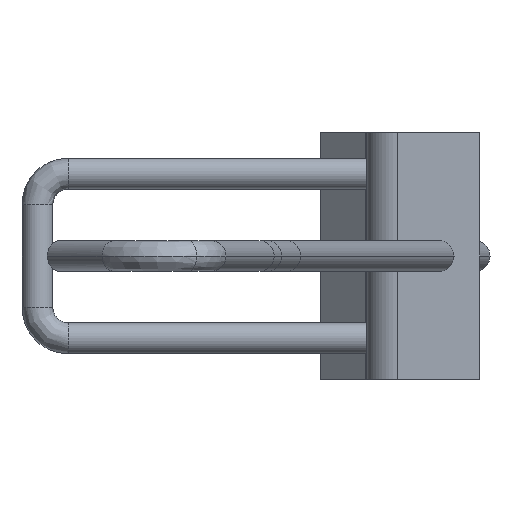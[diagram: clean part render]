
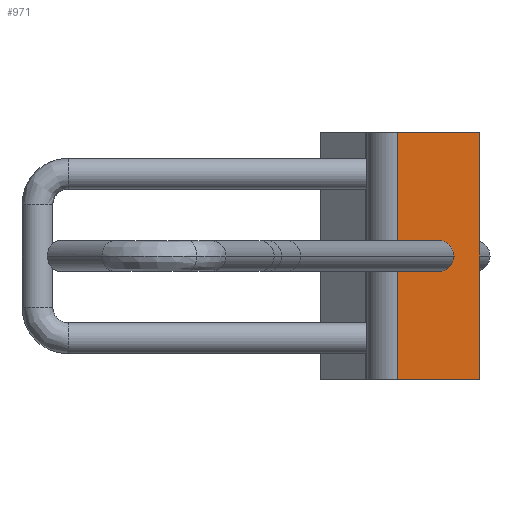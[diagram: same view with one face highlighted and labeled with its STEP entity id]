
A CAD part, left-side view. The second image highlights one B-rep face of the part: STEP entity #971.
In plain terms, the highlighted planar face has unit normal (-1, 0, 0).
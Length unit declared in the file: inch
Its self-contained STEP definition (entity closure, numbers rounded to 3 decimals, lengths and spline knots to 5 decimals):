
#487=EDGE_CURVE('',#1204,#1205,#1206,.T.);
#551=EDGE_CURVE('',#1304,#1305,#1306,.T.);
#583=EDGE_CURVE('',#1351,#1352,#1353,.T.);
#601=EDGE_CURVE('',#1205,#1204,#1380,.T.);
#875=EDGE_CURVE('',#1305,#1352,#1730,.T.);
#931=EDGE_CURVE('',#1304,#1351,#1803,.T.);
#971=ADVANCED_FACE('',(#1847,#1848),#1849,.T.);
#1204=VERTEX_POINT('',#2273);
#1205=VERTEX_POINT('',#2274);
#1206=ELLIPSE('',#2275,0.19058,0.1875);
#1304=VERTEX_POINT('',#2654);
#1305=VERTEX_POINT('',#2655);
#1306=LINE('',#2656,#2657);
#1351=VERTEX_POINT('',#2719);
#1352=VERTEX_POINT('',#2720);
#1353=LINE('',#2721,#2722);
#1380=ELLIPSE('',#2761,0.19058,0.1875);
#1730=LINE('',#3845,#3846);
#1803=LINE('',#4076,#4077);
#1847=FACE_OUTER_BOUND('',#4162,.T.);
#1848=FACE_BOUND('',#4163,.T.);
#1849=PLANE('',#4164);
#2273=CARTESIAN_POINT('',(3.52252,-0.45015,1.5));
#2274=CARTESIAN_POINT('',(3.52252,-0.83131,1.5));
#2275=AXIS2_PLACEMENT_3D('',#4383,#4384,#4385);
#2654=CARTESIAN_POINT('',(3.52252,-1.14678,0.0));
#2655=CARTESIAN_POINT('',(3.52252,-1.14678,3.0));
#2656=CARTESIAN_POINT('',(3.52252,-1.14678,0.0));
#2657=VECTOR('',#4455,1.0);
#2719=CARTESIAN_POINT('',(3.52252,-0.14678,0.0));
#2720=CARTESIAN_POINT('',(3.52252,-0.14678,3.0));
#2721=CARTESIAN_POINT('',(3.52252,-0.14678,0.0));
#2722=VECTOR('',#4538,1.0);
#2761=AXIS2_PLACEMENT_3D('',#4567,#4568,#4569);
#3845=CARTESIAN_POINT('',(3.52252,-1.14678,3.0));
#3846=VECTOR('',#4995,1.0);
#4076=CARTESIAN_POINT('',(3.52252,-1.14678,0.0));
#4077=VECTOR('',#5111,1.0);
#4162=EDGE_LOOP('',(#5148,#5149,#5150,#5151));
#4163=EDGE_LOOP('',(#5152,#5153));
#4164=AXIS2_PLACEMENT_3D('',#5154,#5155,#5156);
#4383=CARTESIAN_POINT('',(3.52252,-0.64073,1.5));
#4384=DIRECTION('',(-1.0,0.0,0.0));
#4385=DIRECTION('',(0.0,-1.0,0.0));
#4455=DIRECTION('',(0.0,0.0,1.0));
#4538=DIRECTION('',(0.0,0.0,1.0));
#4567=CARTESIAN_POINT('',(3.52252,-0.64073,1.5));
#4568=DIRECTION('',(-1.0,0.0,0.0));
#4569=DIRECTION('',(0.0,-1.0,0.0));
#4995=DIRECTION('',(0.0,1.0,0.0));
#5111=DIRECTION('',(0.0,1.0,0.0));
#5148=ORIENTED_EDGE('',*,*,#875,.T.);
#5149=ORIENTED_EDGE('',*,*,#583,.F.);
#5150=ORIENTED_EDGE('',*,*,#931,.F.);
#5151=ORIENTED_EDGE('',*,*,#551,.T.);
#5152=ORIENTED_EDGE('',*,*,#487,.F.);
#5153=ORIENTED_EDGE('',*,*,#601,.F.);
#5154=CARTESIAN_POINT('',(3.52252,-0.64678,0.0));
#5155=DIRECTION('',(-1.0,-0.0,0.0));
#5156=DIRECTION('',(0.0,-1.0,-0.0));
